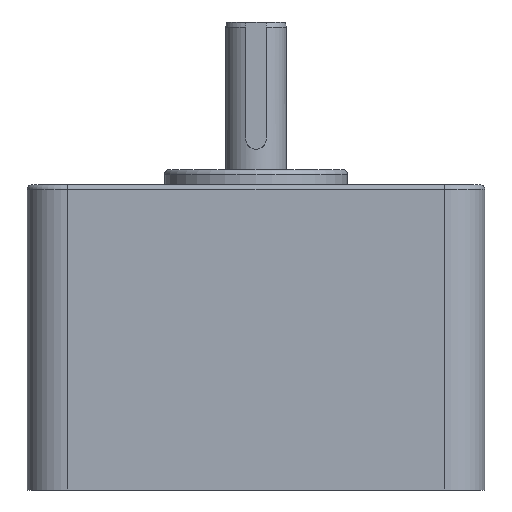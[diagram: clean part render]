
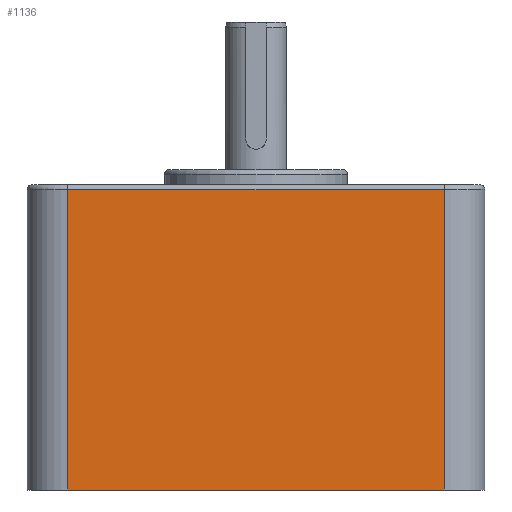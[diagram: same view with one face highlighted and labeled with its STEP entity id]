
A CAD part, front view. The second image highlights one B-rep face of the part: STEP entity #1136.
In plain terms, the highlighted planar face has unit normal (0, -1, 0).
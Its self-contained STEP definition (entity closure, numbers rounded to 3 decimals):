
#833=CARTESIAN_POINT('',(82.,0.0,59.0));
#834=VERTEX_POINT('',#833);
#843=CARTESIAN_POINT('',(8.,0.0,59.0));
#844=VERTEX_POINT('',#843);
#852=CARTESIAN_POINT('',(8.,0.0,59.0));
#853=DIRECTION('',(1.0,0.0,0.0));
#854=VECTOR('',#853,74.);
#855=LINE('',#852,#854);
#856=EDGE_CURVE('',#844,#834,#855,.T.);
#1094=CARTESIAN_POINT('',(82.,0.0,0.0));
#1095=VERTEX_POINT('',#1094);
#1096=CARTESIAN_POINT('',(82.,0.0,59.0));
#1097=DIRECTION('',(0.0,0.0,-1.0));
#1098=VECTOR('',#1097,59.0);
#1099=LINE('',#1096,#1098);
#1100=EDGE_CURVE('',#834,#1095,#1099,.T.);
#1113=CARTESIAN_POINT('',(90.,0.0,0.0));
#1114=DIRECTION('',(0.0,-1.0,0.0));
#1115=DIRECTION('',(0.0,0.0,-1.0));
#1116=AXIS2_PLACEMENT_3D('',#1113,#1114,#1115);
#1117=PLANE('',#1116);
#1118=ORIENTED_EDGE('',*,*,#856,.F.);
#1119=CARTESIAN_POINT('',(8.,0.0,0.0));
#1120=VERTEX_POINT('',#1119);
#1121=CARTESIAN_POINT('',(8.,0.0,0.0));
#1122=DIRECTION('',(0.0,0.0,1.0));
#1123=VECTOR('',#1122,59.0);
#1124=LINE('',#1121,#1123);
#1125=EDGE_CURVE('',#1120,#844,#1124,.T.);
#1126=ORIENTED_EDGE('',*,*,#1125,.F.);
#1127=CARTESIAN_POINT('',(8.,0.0,0.0));
#1128=DIRECTION('',(1.0,0.0,0.0));
#1129=VECTOR('',#1128,74.);
#1130=LINE('',#1127,#1129);
#1131=EDGE_CURVE('',#1120,#1095,#1130,.T.);
#1132=ORIENTED_EDGE('',*,*,#1131,.T.);
#1133=ORIENTED_EDGE('',*,*,#1100,.F.);
#1134=EDGE_LOOP('',(#1118,#1126,#1132,#1133));
#1135=FACE_OUTER_BOUND('',#1134,.T.);
#1136=ADVANCED_FACE('',(#1135),#1117,.T.);
